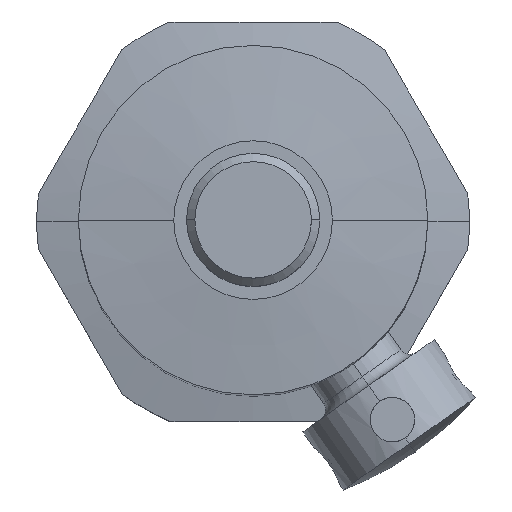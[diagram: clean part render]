
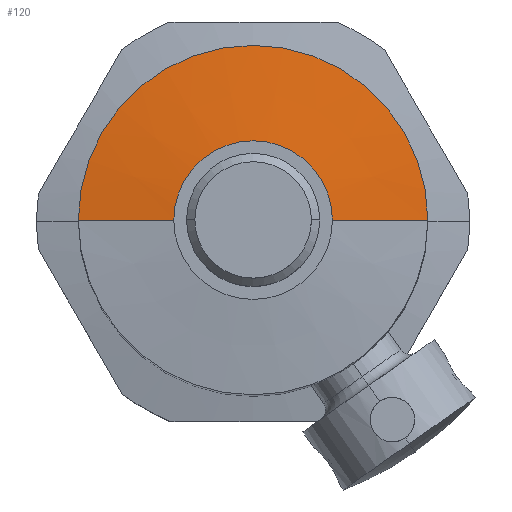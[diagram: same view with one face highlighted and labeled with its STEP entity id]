
A CAD part, top view. The second image highlights one B-rep face of the part: STEP entity #120.
In plain terms, the highlighted conical face has half-angle 83.367 degrees and reference radius 11.45 mm.
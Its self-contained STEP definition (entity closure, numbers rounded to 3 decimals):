
#120=ADVANCED_FACE('',(#292),#293,.T.);
#292=FACE_OUTER_BOUND('',#521,.T.);
#293=CONICAL_SURFACE('',#522,11.45,1.455);
#521=EDGE_LOOP('',(#810,#811,#812,#813));
#522=AXIS2_PLACEMENT_3D('',#814,#815,#816);
#810=ORIENTED_EDGE('',*,*,#1373,.F.);
#811=ORIENTED_EDGE('',*,*,#1374,.T.);
#812=ORIENTED_EDGE('',*,*,#1375,.F.);
#813=ORIENTED_EDGE('',*,*,#1370,.F.);
#814=CARTESIAN_POINT('',(0.0,0.0,10.2));
#815=DIRECTION('',(-0.0,0.0,-1.0));
#816=DIRECTION('',(-1.0,0.,0.0));
#1370=EDGE_CURVE('',#1635,#1637,#1638,.T.);
#1373=EDGE_CURVE('',#1641,#1635,#1642,.T.);
#1374=EDGE_CURVE('',#1641,#1643,#1644,.T.);
#1375=EDGE_CURVE('',#1637,#1643,#1645,.T.);
#1635=VERTEX_POINT('',#2011);
#1637=VERTEX_POINT('',#2014);
#1638=CIRCLE('',#2015,15.75);
#1641=VERTEX_POINT('',#2019);
#1642=LINE('',#2020,#2021);
#1643=VERTEX_POINT('',#2022);
#1644=CIRCLE('',#2023,7.15);
#1645=LINE('',#2024,#2025);
#2011=CARTESIAN_POINT('',(-15.75,0.,9.7));
#2014=CARTESIAN_POINT('',(15.75,0.,9.7));
#2015=AXIS2_PLACEMENT_3D('',#2739,#2740,#2741);
#2019=CARTESIAN_POINT('',(-7.15,0.,10.7));
#2020=CARTESIAN_POINT('',(-11.45,0.,10.2));
#2021=VECTOR('',#2743,1.0);
#2022=CARTESIAN_POINT('',(7.15,0.,10.7));
#2023=AXIS2_PLACEMENT_3D('',#2744,#2745,#2746);
#2024=CARTESIAN_POINT('',(11.45,0.,10.2));
#2025=VECTOR('',#2747,1.0);
#2739=CARTESIAN_POINT('',(0.0,0.0,9.7));
#2740=DIRECTION('',(0.0,0.0,-1.0));
#2741=DIRECTION('',(-1.0,0.,0.0));
#2743=DIRECTION('',(-0.993,0.,-0.116));
#2744=CARTESIAN_POINT('',(0.0,0.0,10.7));
#2745=DIRECTION('',(0.0,0.0,-1.0));
#2746=DIRECTION('',(-1.0,0.,0.0));
#2747=DIRECTION('',(-0.993,0.,0.116));
